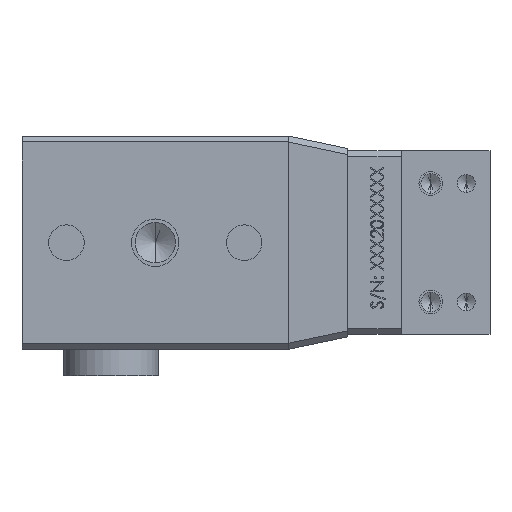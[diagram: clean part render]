
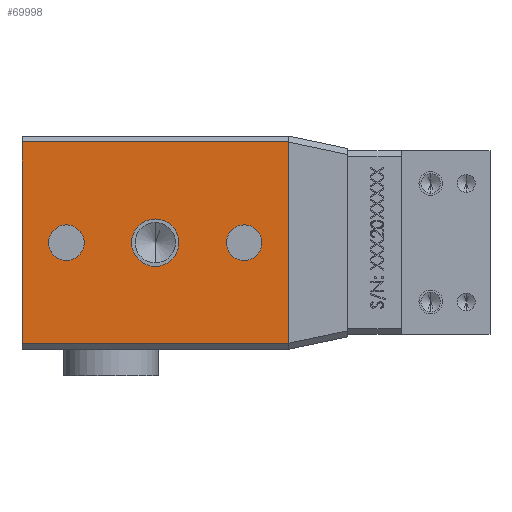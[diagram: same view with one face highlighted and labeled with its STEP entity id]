
A CAD part, left-side view. The second image highlights one B-rep face of the part: STEP entity #69998.
In plain terms, the highlighted planar face has unit normal (-1, 0, 0).
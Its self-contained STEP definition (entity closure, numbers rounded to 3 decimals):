
#14 = CIRCLE ( 'NONE', #67807, 4. ) ;
#41 = ORIENTED_EDGE ( 'NONE', *, *, #68833, .T. ) ;
#274 = DIRECTION ( 'NONE',  ( -1., 0., 0. ) ) ;
#587 = VERTEX_POINT ( 'NONE', #50041 ) ;
#605 = EDGE_CURVE ( 'NONE', #24352, #6221, #14, .T. ) ;
#1585 = CARTESIAN_POINT ( 'NONE',  ( -18.359, 74.86, 40.687 ) ) ;
#2035 = ORIENTED_EDGE ( 'NONE', *, *, #57062, .F. ) ;
#2078 = EDGE_CURVE ( 'NONE', #587, #66212, #18050, .T. ) ;
#3490 = DIRECTION ( 'NONE',  ( -1., 0., 0. ) ) ;
#3904 = VERTEX_POINT ( 'NONE', #60061 ) ;
#3949 = VERTEX_POINT ( 'NONE', #42294 ) ;
#6221 = VERTEX_POINT ( 'NONE', #1585 ) ;
#6667 = EDGE_CURVE ( 'NONE', #3904, #74714, #71056, .T. ) ;
#6732 = ORIENTED_EDGE ( 'NONE', *, *, #70840, .F. ) ;
#7225 = LINE ( 'NONE', #16387, #9028 ) ;
#8421 = CARTESIAN_POINT ( 'NONE',  ( -18.359, 74.86, 48.687 ) ) ;
#9028 = VECTOR ( 'NONE', #62668, 1000. ) ;
#12834 = AXIS2_PLACEMENT_3D ( 'NONE', #62380, #45336, #74151 ) ;
#14239 = DIRECTION ( 'NONE',  ( 0., 0., 1. ) ) ;
#14292 = CIRCLE ( 'NONE', #25430, 3. ) ;
#14376 = FACE_BOUND ( 'NONE', #31607, .T. ) ;
#14702 = DIRECTION ( 'NONE',  ( 0., 0., 1. ) ) ;
#16387 = CARTESIAN_POINT ( 'NONE',  ( -18.359, 52.36, 44.687 ) ) ;
#18007 = FACE_BOUND ( 'NONE', #34967, .T. ) ;
#18050 = LINE ( 'NONE', #72667, #27169 ) ;
#19079 = VERTEX_POINT ( 'NONE', #57539 ) ;
#19747 = CARTESIAN_POINT ( 'NONE',  ( -18.359, 59.86, 44.687 ) ) ;
#19833 = CARTESIAN_POINT ( 'NONE',  ( -18.359, 89.86, 44.687 ) ) ;
#21693 = ORIENTED_EDGE ( 'NONE', *, *, #2078, .T. ) ;
#22092 = CARTESIAN_POINT ( 'NONE',  ( -18.359, 84.56, 27.687 ) ) ;
#22343 = DIRECTION ( 'NONE',  ( 0., -1., 0. ) ) ;
#22533 = DIRECTION ( 'NONE',  ( -1., 0., 0. ) ) ;
#24352 = VERTEX_POINT ( 'NONE', #8421 ) ;
#24859 = CIRCLE ( 'NONE', #72029, 3. ) ;
#25430 = AXIS2_PLACEMENT_3D ( 'NONE', #19747, #55327, #65804 ) ;
#27169 = VECTOR ( 'NONE', #30891, 1000. ) ;
#27931 = ORIENTED_EDGE ( 'NONE', *, *, #605, .F. ) ;
#29186 = EDGE_CURVE ( 'NONE', #6221, #24352, #73658, .T. ) ;
#29793 = FACE_OUTER_BOUND ( 'NONE', #67921, .T. ) ;
#30090 = CARTESIAN_POINT ( 'NONE',  ( -18.359, 97.36, 61.687 ) ) ;
#30541 = ORIENTED_EDGE ( 'NONE', *, *, #6667, .T. ) ;
#30891 = DIRECTION ( 'NONE',  ( 0., 1., 0. ) ) ;
#30977 = CARTESIAN_POINT ( 'NONE',  ( -18.359, 89.86, 47.687 ) ) ;
#31607 = EDGE_LOOP ( 'NONE', ( #70835, #6732 ) ) ;
#34967 = EDGE_LOOP ( 'NONE', ( #61733, #51580 ) ) ;
#35413 = EDGE_CURVE ( 'NONE', #19079, #3949, #24859, .T. ) ;
#39844 = CARTESIAN_POINT ( 'NONE',  ( -18.359, 89.86, 41.687 ) ) ;
#40062 = VECTOR ( 'NONE', #22343, 1000. ) ;
#40073 = CIRCLE ( 'NONE', #64654, 3. ) ;
#40760 = FACE_BOUND ( 'NONE', #68738, .T. ) ;
#42294 = CARTESIAN_POINT ( 'NONE',  ( -18.359, 59.86, 41.687 ) ) ;
#42355 = AXIS2_PLACEMENT_3D ( 'NONE', #19833, #49330, #14239 ) ;
#43651 = PLANE ( 'NONE',  #71267 ) ;
#44147 = DIRECTION ( 'NONE',  ( 0., 0., 1. ) ) ;
#45336 = DIRECTION ( 'NONE',  ( -1., 0., 0. ) ) ;
#49330 = DIRECTION ( 'NONE',  ( -1., 0., 0. ) ) ;
#49663 = ORIENTED_EDGE ( 'NONE', *, *, #29186, .F. ) ;
#50041 = CARTESIAN_POINT ( 'NONE',  ( -18.359, 52.36, 61.687 ) ) ;
#51580 = ORIENTED_EDGE ( 'NONE', *, *, #63759, .F. ) ;
#51604 = EDGE_CURVE ( 'NONE', #69611, #57901, #57778, .T. ) ;
#52655 = DIRECTION ( 'NONE',  ( 0., 0., 1. ) ) ;
#54955 = CARTESIAN_POINT ( 'NONE',  ( -18.359, 97.36, 26.687 ) ) ;
#55327 = DIRECTION ( 'NONE',  ( -1., 0., 0. ) ) ;
#57062 = EDGE_CURVE ( 'NONE', #3904, #66212, #57636, .T. ) ;
#57539 = CARTESIAN_POINT ( 'NONE',  ( -18.359, 59.86, 47.687 ) ) ;
#57636 = LINE ( 'NONE', #54955, #63057 ) ;
#57778 = CIRCLE ( 'NONE', #42355, 3. ) ;
#57901 = VERTEX_POINT ( 'NONE', #39844 ) ;
#60061 = CARTESIAN_POINT ( 'NONE',  ( -18.359, 97.36, 27.687 ) ) ;
#60175 = CARTESIAN_POINT ( 'NONE',  ( -18.359, 59.86, 44.687 ) ) ;
#60440 = CARTESIAN_POINT ( 'NONE',  ( -18.359, 52.36, 27.687 ) ) ;
#61733 = ORIENTED_EDGE ( 'NONE', *, *, #51604, .F. ) ;
#62218 = CARTESIAN_POINT ( 'NONE',  ( -18.359, 74.86, 44.687 ) ) ;
#62380 = CARTESIAN_POINT ( 'NONE',  ( -18.359, 74.86, 44.687 ) ) ;
#62668 = DIRECTION ( 'NONE',  ( 0., 0., 1. ) ) ;
#63057 = VECTOR ( 'NONE', #68238, 1000. ) ;
#63605 = CARTESIAN_POINT ( 'NONE',  ( -18.359, 89.86, 44.687 ) ) ;
#63759 = EDGE_CURVE ( 'NONE', #57901, #69611, #40073, .T. ) ;
#64654 = AXIS2_PLACEMENT_3D ( 'NONE', #63605, #274, #52655 ) ;
#65804 = DIRECTION ( 'NONE',  ( 0., 0., 1. ) ) ;
#66212 = VERTEX_POINT ( 'NONE', #30090 ) ;
#66605 = DIRECTION ( 'NONE',  ( -1., 0., 0. ) ) ;
#67807 = AXIS2_PLACEMENT_3D ( 'NONE', #62218, #22533, #68865 ) ;
#67921 = EDGE_LOOP ( 'NONE', ( #30541, #41, #21693, #2035 ) ) ;
#68238 = DIRECTION ( 'NONE',  ( 0., 0., 1. ) ) ;
#68738 = EDGE_LOOP ( 'NONE', ( #27931, #49663 ) ) ;
#68833 = EDGE_CURVE ( 'NONE', #74714, #587, #7225, .T. ) ;
#68865 = DIRECTION ( 'NONE',  ( 0., 0., 1. ) ) ;
#69611 = VERTEX_POINT ( 'NONE', #30977 ) ;
#69998 = ADVANCED_FACE ( 'NONE', ( #40760, #18007, #14376, #29793 ), #43651, .T. ) ;
#70835 = ORIENTED_EDGE ( 'NONE', *, *, #35413, .F. ) ;
#70840 = EDGE_CURVE ( 'NONE', #3949, #19079, #14292, .T. ) ;
#71056 = LINE ( 'NONE', #22092, #40062 ) ;
#71267 = AXIS2_PLACEMENT_3D ( 'NONE', #73199, #3490, #44147 ) ;
#72029 = AXIS2_PLACEMENT_3D ( 'NONE', #60175, #66605, #14702 ) ;
#72667 = CARTESIAN_POINT ( 'NONE',  ( -18.359, 84.56, 61.687 ) ) ;
#73199 = CARTESIAN_POINT ( 'NONE',  ( -18.359, 84.56, 44.687 ) ) ;
#73658 = CIRCLE ( 'NONE', #12834, 4. ) ;
#74151 = DIRECTION ( 'NONE',  ( 0., 0., 1. ) ) ;
#74714 = VERTEX_POINT ( 'NONE', #60440 ) ;
